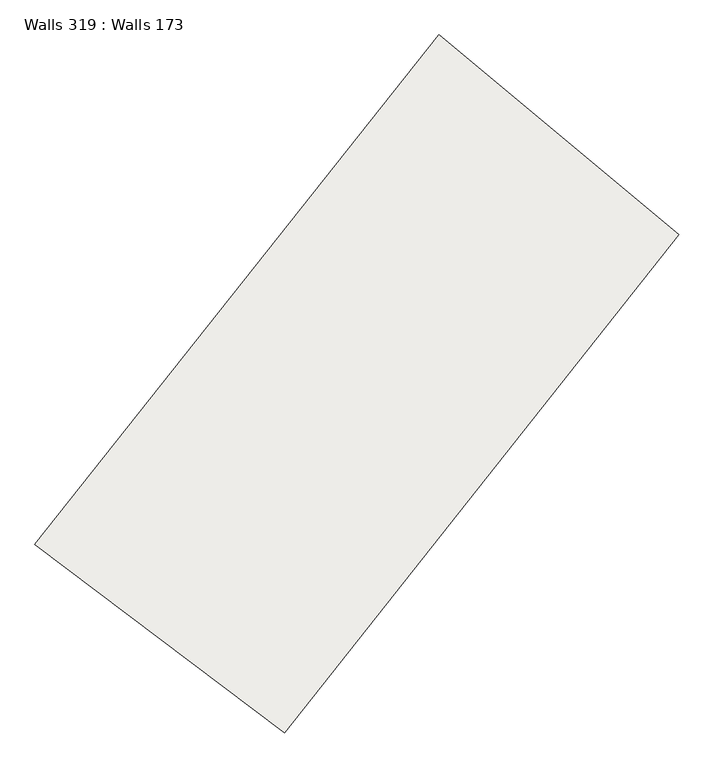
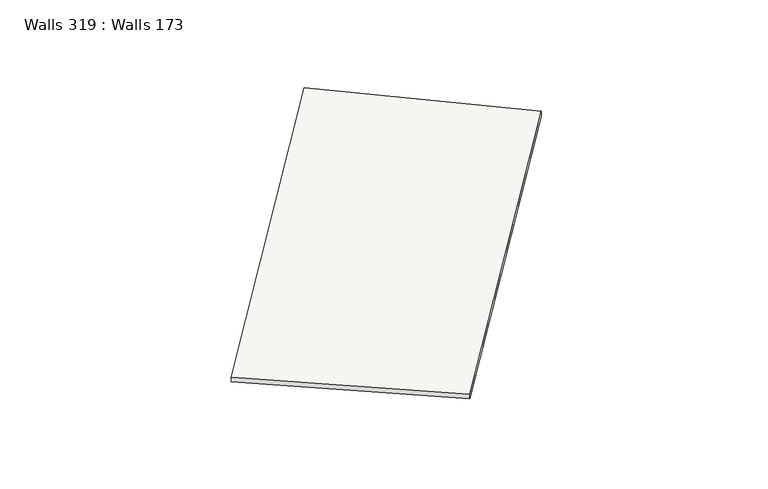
"""IFC4 building model written with IfcOpenShell, lengths in millimetres: slab geometry, Walls 319 : Walls 173."""

from ifc_helpers import new_model, si_unit, frame, origin, place, context, project, spatial, source, transform, mapped, element, save
from ifc_brep_helpers import plane_surface, spline_curve, spline_surface, advanced_brep


def walls_319_walls_173_16c80124(model_context):
    return source(origin(), model_context, "Body", "AdvancedBrep", [
        advanced_brep(
        [(220854.3962418, 126029.5686888, 641960.0), (224208.3687275, 123501.5519632, 641960.0), (224208.3687275, 123501.5519632, 642060.0), (220854.3962418, 126029.5686888, 642060.0), (226283.8414192, 132881.9431479, 642070.0), (226283.8414192, 132881.9431479, 642170.0), (229511.7571347, 130194.8331513, 642170.0), (229511.7571347, 130194.8331513, 642070.0)],
        [
            (0, 1),
            (1, 2),
            (2, 3),
            (3, 0),
            (4, 5),
            (5, 6),
            (6, 7),
            (7, 4),
            (5, 3, spline_curve(3, [(226283.8414192, 132881.9431479, 642170.0), (224419.179018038, 130642.0002073, 642133.333333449), (222608.659276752, 128356.986023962, 642096.666666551), (220854.3962418, 126029.5686888, 642060.0)], [4, 4], [0.0, 28.354972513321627])),
            (2, 6, spline_curve(3, [(224208.3687275, 123501.5519632, 642060.0), (225921.902604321, 125774.933075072, 642096.666666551), (227690.387061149, 128006.89551948, 642133.333333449), (229511.7571347, 130194.8331513, 642170.0)], [4, 4], [0.0, 28.354972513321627])),
            (7, 1, spline_curve(3, [(229511.7571347, 130194.8331513, 642070.0), (227690.387061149, 128006.89551948, 642033.333333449), (225921.902604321, 125774.933075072, 641996.666666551), (224208.3687275, 123501.5519632, 641960.0)], [4, 4], [0.0, 28.354972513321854])),
            (0, 4, spline_curve(3, [(220854.3962418, 126029.5686888, 641960.0), (222608.659276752, 128356.986023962, 641996.666666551), (224419.179018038, 130642.0002073, 642033.333333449), (226283.8414192, 132881.9431479, 642070.0)], [4, 4], [0.0, 28.354972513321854])),
        ],
        [
            plane_surface(frame((222531.3824846, 124765.560326, 642010.0), z_axis=(-0.6019087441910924, -0.7985648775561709, 0.0), x_axis=(0.7985648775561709, -0.6019087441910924, 0.0))),
            plane_surface(frame((227897.7992769, 131538.3881496, 642120.0), z_axis=(0.6397880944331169, 0.7685513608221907, 0.0), x_axis=(0.7685513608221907, -0.6397880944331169, 0.0))),
            spline_surface(3, 3, [[(229511.7571347, 130194.8331513, 642170.0), (227690.387061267, 128006.895519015, 642133.333333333), (225921.902604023, 125774.93307537, 642096.666666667), (224208.3687275, 123501.5519632, 642060.0)], [(228435.785229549, 131090.536483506, 642170.0), (226599.984380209, 128885.263748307, 642133.333333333), (224817.488161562, 126635.617391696, 642096.666666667), (223090.377898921, 124344.224205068, 642060.0)], [(227359.813324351, 131986.239815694, 642170.0), (225509.581699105, 129763.63197758, 642133.333333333), (223713.073719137, 127496.30170802, 642096.666666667), (221972.387070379, 125186.896446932, 642060.0)], [(226283.8414192, 132881.9431479, 642170.0), (224419.179018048, 130642.000206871, 642133.333333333), (222608.659276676, 128356.986024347, 642096.666666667), (220854.3962418, 126029.5686888, 642060.0)]], [4, 4], [4, 4], [0.0, 13.779527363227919], [0.0, 28.354972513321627]),
            spline_surface(3, 3, [[(226283.8414192, 132881.9431479, 642070.0), (224419.179018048, 130642.000206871, 642033.333333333), (222608.659276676, 128356.986024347, 641996.666666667), (220854.3962418, 126029.5686888, 641960.0)], [(227359.813324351, 131986.239815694, 642070.0), (225509.581699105, 129763.63197758, 642033.333333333), (223713.073719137, 127496.30170802, 641996.666666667), (221972.387070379, 125186.896446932, 641960.0)], [(228435.785229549, 131090.536483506, 642070.0), (226599.984380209, 128885.263748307, 642033.333333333), (224817.488161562, 126635.617391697, 641996.666666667), (223090.377898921, 124344.224205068, 641960.0)], [(229511.7571347, 130194.8331513, 642070.0), (227690.387061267, 128006.895519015, 642033.333333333), (225921.902604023, 125774.93307537, 641996.666666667), (224208.3687275, 123501.5519632, 641960.0)]], [4, 4], [4, 4], [0.0, 13.779527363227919], [0.0, 28.354972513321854]),
            spline_surface(3, 3, [[(229511.7571347, 130194.8331513, 642070.0), (227690.387061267, 128006.895519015, 642033.333333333), (225921.902604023, 125774.93307537, 641996.666666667), (224208.3687275, 123501.5519632, 641960.0)], [(229511.7571347, 130194.8331513, 642103.333333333), (227690.387061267, 128006.895519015, 642066.666666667), (225921.902604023, 125774.93307537, 642030.0), (224208.3687275, 123501.5519632, 641993.333333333)], [(229511.7571347, 130194.8331513, 642136.666666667), (227690.387061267, 128006.895519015, 642100.0), (225921.902604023, 125774.93307537, 642063.333333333), (224208.3687275, 123501.5519632, 642026.666666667)], [(229511.7571347, 130194.8331513, 642170.0), (227690.387061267, 128006.895519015, 642133.333333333), (225921.902604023, 125774.93307537, 642096.666666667), (224208.3687275, 123501.5519632, 642060.0)]], [4, 4], [4, 4], [0.0, 0.3280839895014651], [0.0, 28.021998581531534]),
            spline_surface(3, 3, [[(226283.8414192, 132881.9431479, 642170.0), (224419.179018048, 130642.000206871, 642133.333333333), (222608.659276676, 128356.986024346, 642096.666666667), (220854.3962418, 126029.5686888, 642060.0)], [(226283.8414192, 132881.9431479, 642136.666666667), (224419.179018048, 130642.000206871, 642100.0), (222608.659276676, 128356.986024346, 642063.333333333), (220854.3962418, 126029.5686888, 642026.666666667)], [(226283.8414192, 132881.9431479, 642103.333333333), (224419.179018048, 130642.000206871, 642066.666666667), (222608.659276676, 128356.986024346, 642030.0), (220854.3962418, 126029.5686888, 641993.333333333)], [(226283.8414192, 132881.9431479, 642070.0), (224419.179018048, 130642.000206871, 642033.333333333), (222608.659276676, 128356.986024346, 641996.666666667), (220854.3962418, 126029.5686888, 641960.0)]], [4, 4], [4, 4], [0.0, 0.3280839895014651], [0.0, 28.687947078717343]),
        ],
        [
            (0, [[1, 2, 3, 4]]),
            (1, [[5, 6, 7, 8]]),
            (2, [[-6, 9, -3, 10]]),
            (3, [[-8, 11, -1, 12]]),
            (4, [[-7, -10, -2, -11]]),
            (5, [[-5, -12, -4, -9]]),
        ],
    ),
    ])


if __name__ == "__main__":
    model = new_model("IFC4")
    model_context = context("Model", 3, world=origin())
    ifc_project = project(units=[si_unit("LENGTHUNIT", "METRE", prefix="MILLI")], contexts=[model_context])
    site = spatial("IfcSite", under=ifc_project)
    building = spatial("IfcBuilding", under=site)
    placement = place(None, origin())
    walls_319_walls_173_shape = walls_319_walls_173_16c80124(model_context)
    element("IfcSlab", 1, ObjectType="Walls 319 : Walls 173", at=placement, inside=building, context=model_context, shape_type="MappedRepresentation", body=[
        mapped(walls_319_walls_173_shape, transform((0.0, 0.0, 0.0), x_axis=(1.0, 0.0, 0.0), y_axis=(0.0, 1.0, 0.0), z_axis=(0.0, 0.0, 1.0))),
    ])
    save(model, "model.ifc")
